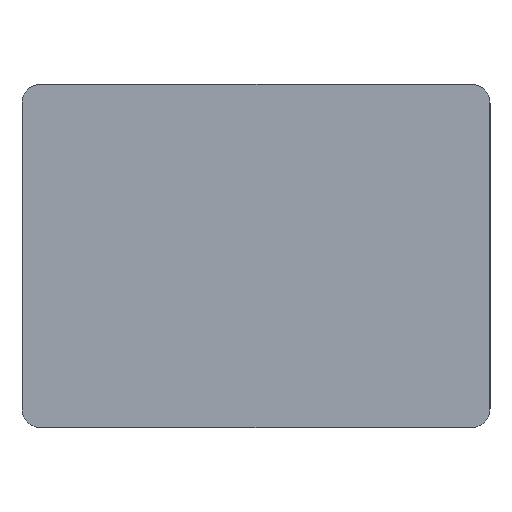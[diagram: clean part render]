
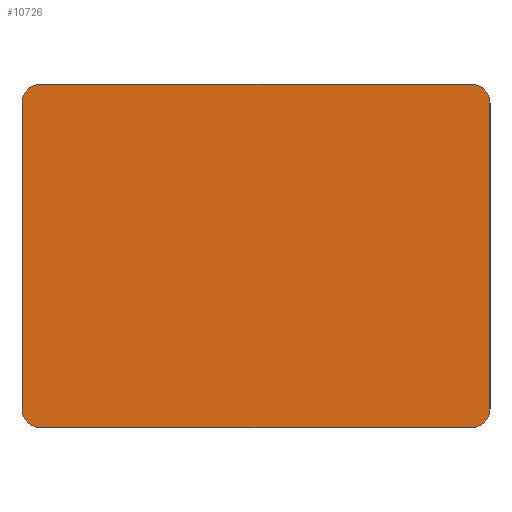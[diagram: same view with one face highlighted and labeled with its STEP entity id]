
A CAD part, left-side view. The second image highlights one B-rep face of the part: STEP entity #10726.
In plain terms, the highlighted planar face has unit normal (-1, 0, 0).
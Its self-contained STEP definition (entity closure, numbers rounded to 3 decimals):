
#1402=PLANE('',#11020);
#1963=FACE_OUTER_BOUND('',#2597,.T.);
#2597=EDGE_LOOP('',(#9934,#9935,#9936,#9937,#9938,#9939,#9940,#9941));
#3380=LINE('',#21741,#4159);
#3385=LINE('',#21767,#4164);
#3394=LINE('',#21810,#4173);
#3397=LINE('',#21819,#4176);
#4159=VECTOR('',#12196,10.);
#4164=VECTOR('',#12231,10.);
#4173=VECTOR('',#12282,10.);
#4176=VECTOR('',#12291,10.);
#4242=CIRCLE('',#11018,3.);
#4243=CIRCLE('',#11021,3.);
#4244=CIRCLE('',#11022,3.);
#4245=CIRCLE('',#11023,3.);
#5273=VERTEX_POINT('',#21735);
#5275=VERTEX_POINT('',#21739);
#5279=VERTEX_POINT('',#21761);
#5281=VERTEX_POINT('',#21765);
#5293=VERTEX_POINT('',#21805);
#5294=VERTEX_POINT('',#21809);
#5296=VERTEX_POINT('',#21816);
#5297=VERTEX_POINT('',#21818);
#6826=EDGE_CURVE('',#5275,#5273,#3380,.T.);
#6833=EDGE_CURVE('',#5281,#5279,#3385,.T.);
#6852=EDGE_CURVE('',#5279,#5293,#4242,.T.);
#6854=EDGE_CURVE('',#5293,#5294,#3394,.T.);
#6857=EDGE_CURVE('',#5273,#5281,#4243,.T.);
#6858=EDGE_CURVE('',#5296,#5275,#4244,.T.);
#6859=EDGE_CURVE('',#5297,#5296,#3397,.T.);
#6860=EDGE_CURVE('',#5294,#5297,#4245,.T.);
#9934=ORIENTED_EDGE('',*,*,#6852,.F.);
#9935=ORIENTED_EDGE('',*,*,#6833,.F.);
#9936=ORIENTED_EDGE('',*,*,#6857,.F.);
#9937=ORIENTED_EDGE('',*,*,#6826,.F.);
#9938=ORIENTED_EDGE('',*,*,#6858,.F.);
#9939=ORIENTED_EDGE('',*,*,#6859,.F.);
#9940=ORIENTED_EDGE('',*,*,#6860,.F.);
#9941=ORIENTED_EDGE('',*,*,#6854,.F.);
#10726=ADVANCED_FACE('',(#1963),#1402,.F.);
#11018=AXIS2_PLACEMENT_3D('',#21806,#12277,#12278);
#11020=AXIS2_PLACEMENT_3D('',#21814,#12285,#12286);
#11021=AXIS2_PLACEMENT_3D('',#21815,#12287,#12288);
#11022=AXIS2_PLACEMENT_3D('',#21817,#12289,#12290);
#11023=AXIS2_PLACEMENT_3D('',#21820,#12292,#12293);
#12196=DIRECTION('',(0.,0.,-1.));
#12231=DIRECTION('',(0.,1.,0.));
#12277=DIRECTION('center_axis',(1.,0.,0.));
#12278=DIRECTION('ref_axis',(0.,0.707,-0.707));
#12282=DIRECTION('',(0.,0.,1.));
#12285=DIRECTION('center_axis',(1.,0.,0.));
#12286=DIRECTION('ref_axis',(0.,1.,0.));
#12287=DIRECTION('center_axis',(1.,0.,0.));
#12288=DIRECTION('ref_axis',(0.,-0.707,-0.707));
#12289=DIRECTION('center_axis',(1.,0.,0.));
#12290=DIRECTION('ref_axis',(0.,-0.707,0.707));
#12291=DIRECTION('',(0.,-1.,0.));
#12292=DIRECTION('center_axis',(1.,0.,0.));
#12293=DIRECTION('ref_axis',(0.,0.707,0.707));
#21735=CARTESIAN_POINT('',(0.,0.,3.));
#21739=CARTESIAN_POINT('',(0.,0.,52.));
#21741=CARTESIAN_POINT('',(0.,0.,55.));
#21761=CARTESIAN_POINT('',(0.,72.,0.));
#21765=CARTESIAN_POINT('',(0.,3.,0.));
#21767=CARTESIAN_POINT('',(0.,0.,0.));
#21805=CARTESIAN_POINT('',(0.,75.,3.));
#21806=CARTESIAN_POINT('Origin',(0.,72.,3.));
#21809=CARTESIAN_POINT('',(0.,75.,52.));
#21810=CARTESIAN_POINT('',(0.,75.,0.));
#21814=CARTESIAN_POINT('Origin',(0.,37.5,27.5));
#21815=CARTESIAN_POINT('Origin',(0.,3.,3.));
#21816=CARTESIAN_POINT('',(0.,3.,55.));
#21817=CARTESIAN_POINT('Origin',(0.,3.,52.));
#21818=CARTESIAN_POINT('',(0.,72.,55.));
#21819=CARTESIAN_POINT('',(0.,75.,55.));
#21820=CARTESIAN_POINT('Origin',(0.,72.,52.));
